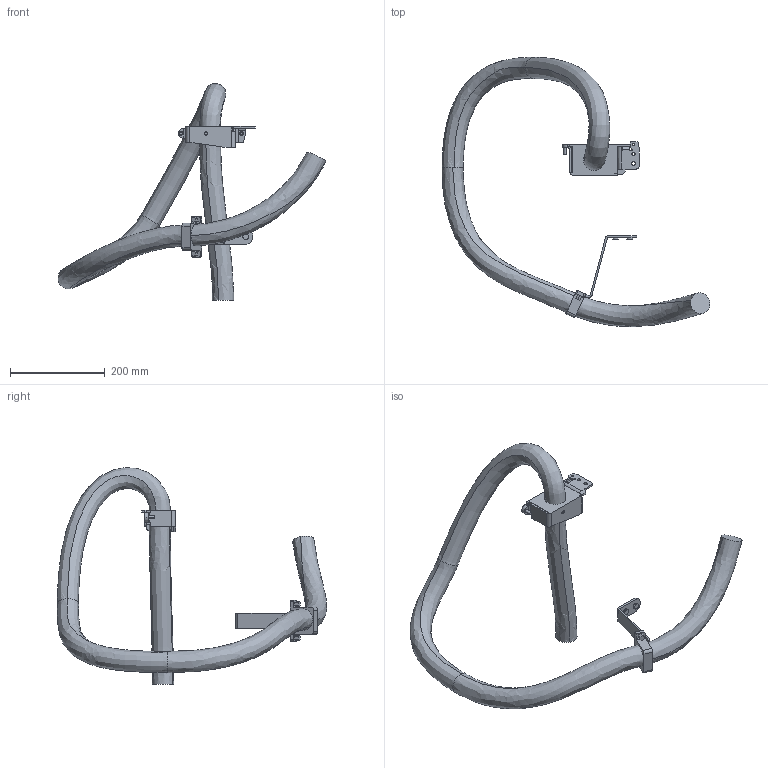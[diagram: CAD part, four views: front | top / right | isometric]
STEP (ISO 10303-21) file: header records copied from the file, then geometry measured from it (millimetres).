
FILE_DESCRIPTION (( 'STEP AP214' ), '1' );
FILE_NAME ('IRB5720-MH3_125kg-300_OmniCore_rev00_LINK01_CABLE.step', '2025-07-08T11:13:51', ( '' ), ( '' ), 'SwSTEP 2.0', 'SolidWorks 2024', '' );
FILE_SCHEMA (( 'AUTOMOTIVE_DESIGN' ));
Length unit declared in the file: millimetre
Products named in the file (1): IRB5720-MH3_125kg-300_OmniCore_rev00_LINK01_CABLE
Bounding box: 565.57 x 568.24 x 457.15 mm (x, y, z)
Volume: 3351226.7 mm3; surface area: 337817.2 mm2
Topology: 1 solids, 1 shells, 205 faces, 541 edges, 347 vertices
Faces by surface type: plane 104, cylinder 85, bspline 10, cone 6
Entity records: 9371 total; most frequent: CARTESIAN_POINT 4028, DIRECTION 1108, ORIENTED_EDGE 1082, EDGE_CURVE 541, AXIS2_PLACEMENT_3D 391, VERTEX_POINT 347, LINE 326, VECTOR 326
